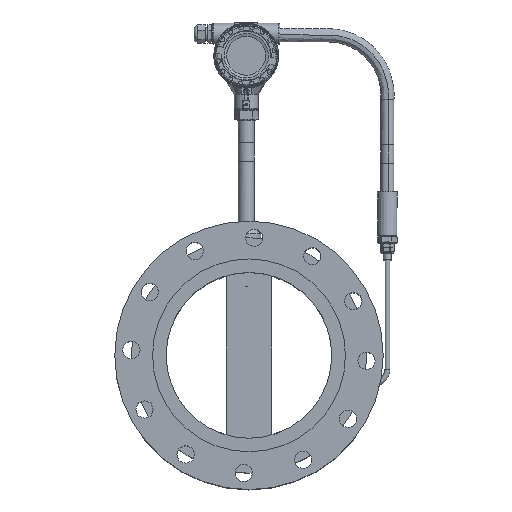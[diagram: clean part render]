
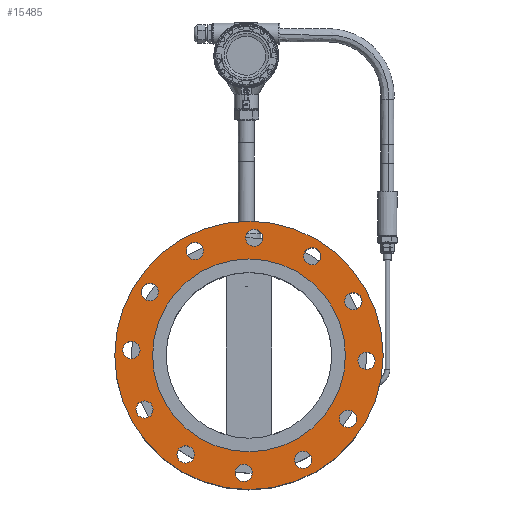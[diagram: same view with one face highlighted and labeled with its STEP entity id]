
A CAD part, top view. The second image highlights one B-rep face of the part: STEP entity #15485.
In plain terms, the highlighted planar face has unit normal (0, 0, 1).
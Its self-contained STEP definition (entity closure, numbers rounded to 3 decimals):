
#608=FACE_BOUND('',#5532,.T.);
#609=FACE_BOUND('',#5533,.T.);
#610=FACE_BOUND('',#5534,.T.);
#611=FACE_BOUND('',#5535,.T.);
#612=FACE_BOUND('',#5536,.T.);
#613=FACE_BOUND('',#5537,.T.);
#614=FACE_BOUND('',#5538,.T.);
#615=FACE_BOUND('',#5539,.T.);
#616=FACE_BOUND('',#5540,.T.);
#617=FACE_BOUND('',#5541,.T.);
#618=FACE_BOUND('',#5542,.T.);
#619=FACE_BOUND('',#5543,.T.);
#620=FACE_BOUND('',#5544,.T.);
#1144=PLANE('',#17292);
#4528=FACE_OUTER_BOUND('',#5531,.T.);
#5531=EDGE_LOOP('',(#14042));
#5532=EDGE_LOOP('',(#14043));
#5533=EDGE_LOOP('',(#14044));
#5534=EDGE_LOOP('',(#14045));
#5535=EDGE_LOOP('',(#14046));
#5536=EDGE_LOOP('',(#14047));
#5537=EDGE_LOOP('',(#14048));
#5538=EDGE_LOOP('',(#14049));
#5539=EDGE_LOOP('',(#14050));
#5540=EDGE_LOOP('',(#14051));
#5541=EDGE_LOOP('',(#14052));
#5542=EDGE_LOOP('',(#14053));
#5543=EDGE_LOOP('',(#14054));
#5544=EDGE_LOOP('',(#14055));
#6330=CIRCLE('',#17242,13.);
#6332=CIRCLE('',#17245,13.);
#6334=CIRCLE('',#17248,13.);
#6336=CIRCLE('',#17251,13.);
#6338=CIRCLE('',#17254,13.);
#6340=CIRCLE('',#17257,13.);
#6342=CIRCLE('',#17260,13.);
#6344=CIRCLE('',#17263,13.);
#6346=CIRCLE('',#17266,13.);
#6348=CIRCLE('',#17269,13.);
#6350=CIRCLE('',#17272,13.);
#6352=CIRCLE('',#17275,13.);
#6358=CIRCLE('',#17284,145.433);
#6360=CIRCLE('',#17289,202.501);
#7671=VERTEX_POINT('',#28246);
#7673=VERTEX_POINT('',#28252);
#7675=VERTEX_POINT('',#28258);
#7677=VERTEX_POINT('',#28264);
#7679=VERTEX_POINT('',#28270);
#7681=VERTEX_POINT('',#28276);
#7683=VERTEX_POINT('',#28282);
#7685=VERTEX_POINT('',#28288);
#7687=VERTEX_POINT('',#28294);
#7689=VERTEX_POINT('',#28300);
#7691=VERTEX_POINT('',#28306);
#7693=VERTEX_POINT('',#28312);
#7699=VERTEX_POINT('',#28329);
#7701=VERTEX_POINT('',#28338);
#9802=EDGE_CURVE('',#7671,#7671,#6330,.T.);
#9805=EDGE_CURVE('',#7673,#7673,#6332,.T.);
#9808=EDGE_CURVE('',#7675,#7675,#6334,.T.);
#9811=EDGE_CURVE('',#7677,#7677,#6336,.T.);
#9814=EDGE_CURVE('',#7679,#7679,#6338,.T.);
#9817=EDGE_CURVE('',#7681,#7681,#6340,.T.);
#9820=EDGE_CURVE('',#7683,#7683,#6342,.T.);
#9823=EDGE_CURVE('',#7685,#7685,#6344,.T.);
#9826=EDGE_CURVE('',#7687,#7687,#6346,.T.);
#9829=EDGE_CURVE('',#7689,#7689,#6348,.T.);
#9832=EDGE_CURVE('',#7691,#7691,#6350,.T.);
#9835=EDGE_CURVE('',#7693,#7693,#6352,.T.);
#9844=EDGE_CURVE('',#7699,#7699,#6358,.T.);
#9847=EDGE_CURVE('',#7701,#7701,#6360,.T.);
#14042=ORIENTED_EDGE('',*,*,#9847,.T.);
#14043=ORIENTED_EDGE('',*,*,#9802,.T.);
#14044=ORIENTED_EDGE('',*,*,#9805,.T.);
#14045=ORIENTED_EDGE('',*,*,#9808,.T.);
#14046=ORIENTED_EDGE('',*,*,#9811,.T.);
#14047=ORIENTED_EDGE('',*,*,#9814,.T.);
#14048=ORIENTED_EDGE('',*,*,#9817,.T.);
#14049=ORIENTED_EDGE('',*,*,#9820,.T.);
#14050=ORIENTED_EDGE('',*,*,#9823,.T.);
#14051=ORIENTED_EDGE('',*,*,#9826,.T.);
#14052=ORIENTED_EDGE('',*,*,#9829,.T.);
#14053=ORIENTED_EDGE('',*,*,#9832,.T.);
#14054=ORIENTED_EDGE('',*,*,#9835,.T.);
#14055=ORIENTED_EDGE('',*,*,#9844,.T.);
#15485=ADVANCED_FACE('',(#4528,#608,#609,#610,#611,#612,#613,#614,#615,
#616,#617,#618,#619,#620),#1144,.F.);
#17242=AXIS2_PLACEMENT_3D('',#28247,#21697,#21698);
#17245=AXIS2_PLACEMENT_3D('',#28253,#21704,#21705);
#17248=AXIS2_PLACEMENT_3D('',#28259,#21711,#21712);
#17251=AXIS2_PLACEMENT_3D('',#28265,#21718,#21719);
#17254=AXIS2_PLACEMENT_3D('',#28271,#21725,#21726);
#17257=AXIS2_PLACEMENT_3D('',#28277,#21732,#21733);
#17260=AXIS2_PLACEMENT_3D('',#28283,#21739,#21740);
#17263=AXIS2_PLACEMENT_3D('',#28289,#21746,#21747);
#17266=AXIS2_PLACEMENT_3D('',#28295,#21753,#21754);
#17269=AXIS2_PLACEMENT_3D('',#28301,#21760,#21761);
#17272=AXIS2_PLACEMENT_3D('',#28307,#21767,#21768);
#17275=AXIS2_PLACEMENT_3D('',#28313,#21774,#21775);
#17284=AXIS2_PLACEMENT_3D('',#28331,#21795,#21796);
#17289=AXIS2_PLACEMENT_3D('',#28339,#21806,#21807);
#17292=AXIS2_PLACEMENT_3D('',#28344,#21813,#21814);
#21697=DIRECTION('center_axis',(0.,0.,
-1.));
#21698=DIRECTION('ref_axis',(1.,0.,0.));
#21704=DIRECTION('center_axis',(0.,0.,
-1.));
#21705=DIRECTION('ref_axis',(1.,0.,0.));
#21711=DIRECTION('center_axis',(0.,0.,
-1.));
#21712=DIRECTION('ref_axis',(1.,0.,0.));
#21718=DIRECTION('center_axis',(0.,0.,
-1.));
#21719=DIRECTION('ref_axis',(1.,0.,0.));
#21725=DIRECTION('center_axis',(0.,0.,
-1.));
#21726=DIRECTION('ref_axis',(1.,0.,0.));
#21732=DIRECTION('center_axis',(0.,0.,
-1.));
#21733=DIRECTION('ref_axis',(1.,0.,0.));
#21739=DIRECTION('center_axis',(0.,0.,
-1.));
#21740=DIRECTION('ref_axis',(1.,0.,0.));
#21746=DIRECTION('center_axis',(0.,0.,
-1.));
#21747=DIRECTION('ref_axis',(1.,0.,0.));
#21753=DIRECTION('center_axis',(0.,0.,
-1.));
#21754=DIRECTION('ref_axis',(1.,0.,0.));
#21760=DIRECTION('center_axis',(0.,0.,
-1.));
#21761=DIRECTION('ref_axis',(1.,0.,0.));
#21767=DIRECTION('center_axis',(0.,0.,
-1.));
#21768=DIRECTION('ref_axis',(1.,0.,0.));
#21774=DIRECTION('center_axis',(0.,0.,
-1.));
#21775=DIRECTION('ref_axis',(1.,0.,0.));
#21795=DIRECTION('center_axis',(0.,0.,
-1.));
#21796=DIRECTION('ref_axis',(1.,0.,0.));
#21806=DIRECTION('center_axis',(0.,0.,
1.));
#21807=DIRECTION('ref_axis',(-1.,0.,0.));
#21813=DIRECTION('center_axis',(0.,0.,
-1.));
#21814=DIRECTION('ref_axis',(-1.,0.,0.));
#28246=CARTESIAN_POINT('',(-533.481,190.702,387.375));
#28247=CARTESIAN_POINT('Origin',(-520.481,190.702,387.375));
#28252=CARTESIAN_POINT('',(-392.045,-82.271,387.364));
#28253=CARTESIAN_POINT('Origin',(-379.045,-82.271,387.364));
#28258=CARTESIAN_POINT('',(-226.361,176.703,387.374));
#28259=CARTESIAN_POINT('Origin',(-213.361,176.703,387.374));
#28264=CARTESIAN_POINT('',(-206.647,86.963,387.371));
#28265=CARTESIAN_POINT('Origin',(-193.647,86.963,387.371));
#28270=CARTESIAN_POINT('',(-479.62,-54.474,387.365));
#28271=CARTESIAN_POINT('Origin',(-466.62,-54.474,387.365));
#28276=CARTESIAN_POINT('',(-465.621,252.646,387.377));
#28277=CARTESIAN_POINT('Origin',(-452.621,252.646,387.377));
#28282=CARTESIAN_POINT('',(-561.278,103.127,387.371));
#28283=CARTESIAN_POINT('Origin',(-548.278,103.127,387.371));
#28288=CARTESIAN_POINT('',(-302.304,-62.556,387.365));
#28289=CARTESIAN_POINT('Origin',(-289.304,-62.556,387.365));
#28294=CARTESIAN_POINT('',(-288.305,244.564,387.377));
#28295=CARTESIAN_POINT('Origin',(-275.305,244.564,387.377));
#28300=CARTESIAN_POINT('',(-234.444,-0.612,387.367));
#28301=CARTESIAN_POINT('Origin',(-221.444,-0.612,387.367));
#28306=CARTESIAN_POINT('',(-541.564,13.386,387.368));
#28307=CARTESIAN_POINT('Origin',(-528.564,13.386,387.368));
#28312=CARTESIAN_POINT('',(-375.88,272.361,387.378));
#28313=CARTESIAN_POINT('Origin',(-362.88,272.361,387.378));
#28329=CARTESIAN_POINT('',(-516.395,95.045,387.371));
#28331=CARTESIAN_POINT('Origin',(-370.962,95.045,387.371));
#28338=CARTESIAN_POINT('',(-168.461,95.045,387.371));
#28339=CARTESIAN_POINT('Origin',(-370.962,95.045,387.371));
#28344=CARTESIAN_POINT('Origin',(-370.962,95.045,387.371));
